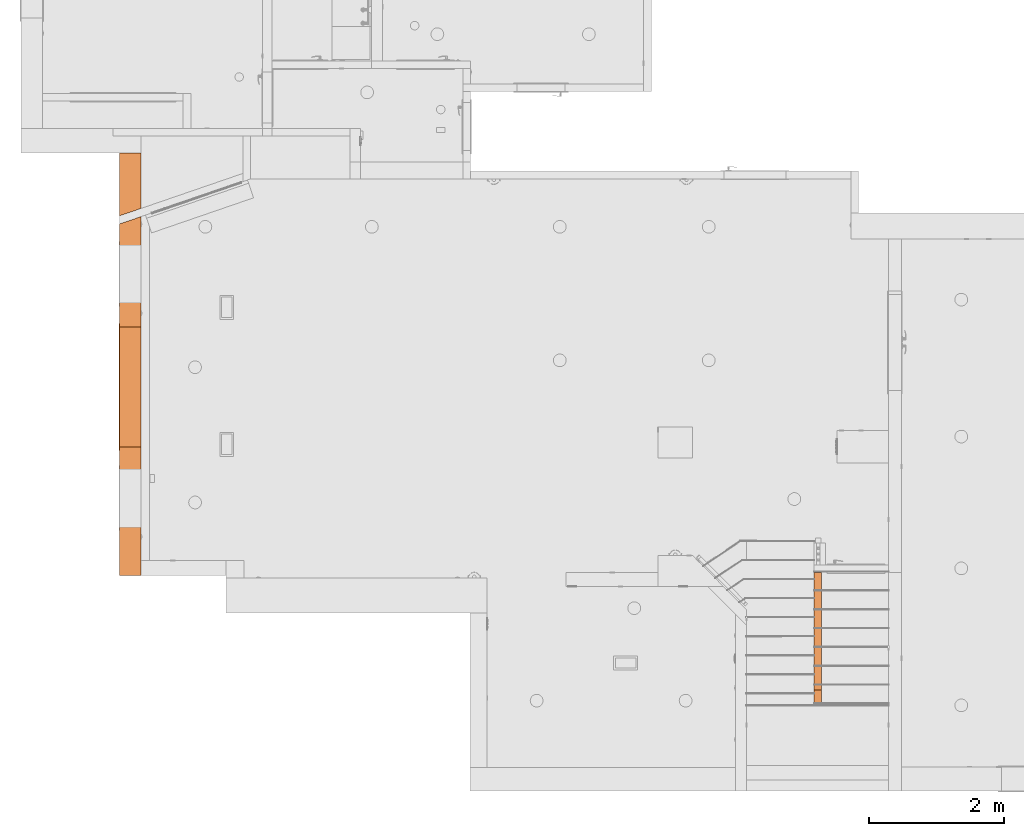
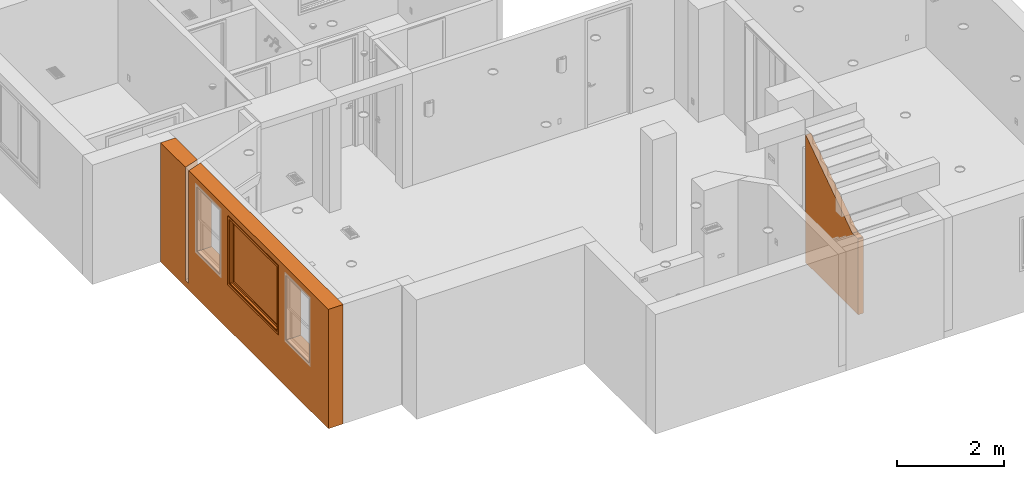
# One storey, part 35 of 48: 3 proxies.
"""IFC2X3 building model written with IfcOpenShell, lengths in inches."""

import ifcopenshell
import ifcopenshell.guid

model = None  # the IFC model being written
_history = None  # IfcOwnerHistory: only IFC2X3 demands one
_inside = {}  # id of a spatial element -> (the spatial element, [elements in it])
_under = {}  # id of a project, library or spatial element -> (it, [spatial elements below it])
_declared = {}  # id of a project -> (the project, [libraries it declares])
_typed = {}  # id of a type object -> (the type object, [elements of that type])
_made_of = {}  # id of a material, layer set ... -> (it, [elements and type objects made of it])


def new_model(schema):
    """Start an empty IFC model of exactly this schema.

    Asked for "IFC4X3", IfcOpenShell would pick the latest addendum, in which some entities
    have other attributes; the version numbers below select the first issue.
    IFC2X3 requires an IfcOwnerHistory on every rooted entity: one is made here for all.
    """
    global model, _history
    if schema == "IFC4X3":
        model = ifcopenshell.file(schema_version=(4, 3, 0, 0))
    else:
        model = ifcopenshell.file(schema=schema)
    _inside.clear()
    _under.clear()
    _declared.clear()
    _typed.clear()
    _made_of.clear()
    _history = None
    if model.schema == "IFC2X3":
        org = make("IfcOrganization", Name="unknown")
        user = make(
            "IfcPersonAndOrganization",
            ThePerson=make("IfcPerson", FamilyName="unknown"),
            TheOrganization=org,
        )
        app = make(
            "IfcApplication",
            ApplicationDeveloper=org,
            Version="unknown",
            ApplicationFullName="unknown",
            ApplicationIdentifier="unknown",
        )
        _history = make(
            "IfcOwnerHistory",
            OwningUser=user,
            OwningApplication=app,
            ChangeAction="ADDED",
            CreationDate=0,
        )
    return model


def make(cls, **values):
    """One entity of the class cls with the attributes given. An attribute that is None is left unset."""
    return model.create_entity(
        cls, **{name: value for name, value in values.items() if value is not None}
    )


def entity(cls, *values):
    """Any entity or typed value of the class cls, its attributes in the order of the schema. None: left unset."""
    e = model.create_entity(cls)
    for i, value in enumerate(values):
        if value is not None:
            e[i] = value
    return e


def rooted(cls, **values):
    """An entity with a GlobalId (a new one), such as an element, a storey or a relation."""
    return make(cls, GlobalId=ifcopenshell.guid.new(), OwnerHistory=_history, **values)


def si_unit(unit_type, name, prefix=None):
    """IfcSIUnit, for example si_unit("LENGTHUNIT", "METRE", prefix="MILLI")."""
    return make("IfcSIUnit", UnitType=unit_type, Prefix=prefix, Name=name)


def converted_unit(unit_type, name, factor, base, dimensions=None, offset=None):
    """IfcConversionBasedUnit, such as the inch: factor (a typed value) times the base unit."""
    return make(
        "IfcConversionBasedUnit"
        if offset is None
        else "IfcConversionBasedUnitWithOffset",
        ConversionOffset=offset,
        Dimensions=None
        if dimensions is None
        else entity("IfcDimensionalExponents", *dimensions),
        UnitType=unit_type,
        Name=name,
        ConversionFactor=make(
            "IfcMeasureWithUnit", ValueComponent=factor, UnitComponent=base
        ),
    )


def derived_unit(unit_type, elements):
    """IfcDerivedUnit: a product of units, each with its exponent."""
    return make(
        "IfcDerivedUnit",
        Elements=[
            make("IfcDerivedUnitElement", Unit=unit, Exponent=power)
            for unit, power in elements
        ],
        UnitType=unit_type,
    )


def money_unit(currency):
    """IfcMonetaryUnit."""
    return make("IfcMonetaryUnit", Currency=currency)


def assignment(units):
    """IfcUnitAssignment: the units of a project."""
    return None if units is None else make("IfcUnitAssignment", Units=units)


def point(xyz):
    """IfcCartesianPoint."""
    return None if xyz is None else make("IfcCartesianPoint", Coordinates=xyz)


def direction(xyz):
    """IfcDirection."""
    return None if xyz is None else make("IfcDirection", DirectionRatios=xyz)


def frame(location, z_axis=None, x_axis=None):
    """IfcAxis2Placement3D, a coordinate frame: its origin and axes. An axis left out is left unset."""
    return make(
        "IfcAxis2Placement3D",
        Location=point(location),
        Axis=direction(z_axis),
        RefDirection=direction(x_axis),
    )


def origin_with_axes():
    """The frame at (0, 0, 0) with the z axis (0, 0, 1) and the x axis (1, 0, 0) written out."""
    return frame((0.0, 0.0, 0.0), z_axis=(0.0, 0.0, 1.0), x_axis=(1.0, 0.0, 0.0))


def place(relative_to, where):
    """IfcLocalPlacement: puts the frame where relative to a parent placement (None: the world)."""
    return make(
        "IfcLocalPlacement", PlacementRelTo=relative_to, RelativePlacement=where
    )


def context(
    kind, dimensions, precision=None, world=None, true_north=None, identifier=None
):
    """IfcGeometricRepresentationContext, for example the 3D "Model" context."""
    return make(
        "IfcGeometricRepresentationContext",
        ContextIdentifier=identifier,
        ContextType=kind,
        CoordinateSpaceDimension=dimensions,
        Precision=precision,
        WorldCoordinateSystem=world,
        TrueNorth=true_north,
    )


def subcontext(parent, identifier, kind, view, scale=None):
    """IfcGeometricRepresentationSubContext, for example "Body" below "Model"."""
    return make(
        "IfcGeometricRepresentationSubContext",
        ContextIdentifier=identifier,
        ContextType=kind,
        ParentContext=parent,
        TargetScale=scale,
        TargetView=view,
    )


def project(units=None, contexts=None):
    """IfcProject with its units and contexts."""
    return rooted(
        "IfcProject",
        Name="project",
        RepresentationContexts=contexts,
        UnitsInContext=assignment(units),
    )


def spatial(cls, under=None, at=None, **own):
    """A site, building, storey or space (cls), placed at a placement, below another one or the project."""
    s = rooted(cls, ObjectPlacement=at, **own)
    if under is not None:
        _under.setdefault(under.id(), (under, []))[1].append(s)
    return s


def faces_of(points, faces, orient=None, outer=None):
    """IfcFace entities. A face is a list of loops; a loop is a list of indices into points, from 0.

    orient and outer hold one flag for each loop. By default every Orientation is true, the
    first loop of a face is its IfcFaceOuterBound and the others are IfcFaceBound.
    """
    made = []
    for i, loops in enumerate(faces):
        bounds = []
        for j, loop in enumerate(loops):
            is_outer = j == 0 if outer is None else outer[i][j]
            bounds.append(
                make(
                    "IfcFaceOuterBound" if is_outer else "IfcFaceBound",
                    Bound=make("IfcPolyLoop", Polygon=[points[k] for k in loop]),
                    Orientation=True if orient is None else orient[i][j],
                )
            )
        made.append(make("IfcFace", Bounds=bounds))
    return made


def faceted_brep(points, faces, orient=None, outer=None, voids=None):
    """IfcFacetedBrep: a solid bounded by flat faces; with voids (closed shells), ...WithVoids."""
    shared = [point(p) for p in points]
    hull = make("IfcClosedShell", CfsFaces=faces_of(shared, faces, orient, outer))
    if voids is None:
        return make("IfcFacetedBrep", Outer=hull)
    return make(
        "IfcFacetedBrepWithVoids",
        Outer=hull,
        Voids=[
            make(cls, CfsFaces=faces_of(shared, fs, o, b)) for cls, fs, o, b in voids
        ],
    )


def shape(context_of_items, identifier, shape_type, items):
    """IfcShapeRepresentation: the items that make up one representation, for example the "Body"."""
    return make(
        "IfcShapeRepresentation",
        ContextOfItems=context_of_items,
        RepresentationIdentifier=identifier,
        RepresentationType=shape_type,
        Items=items,
    )


def material(Name=None, Category=None):
    """IfcMaterial."""
    return make("IfcMaterial", Name=Name, Category=Category)


def made_of(thing, what):
    """Note that an element or type object is made of a material, layer set ...; save() writes the relation."""
    if what is not None:
        _made_of.setdefault(what.id(), (what, []))[1].append(thing)
    return thing


def type_object(cls, material=None, **own):
    """A type object (cls), such as IfcWallType, which elements share."""
    return made_of(rooted(cls, **own), material)


def element(
    cls,
    number,
    at=None,
    inside=None,
    cuts=None,
    type_object=None,
    material=None,
    context=None,
    identifier="Body",
    shape_type=None,
    held_by="IfcProductDefinitionShape",
    body=None,
    shapes=None,
    **own,
):
    """One element of the class cls, such as IfcWall. Its Tag is "e" and its number.

    at: its placement. inside: the storey or other place that contains it. cuts: it is an
    opening in that element (IfcRelVoidsElement). A single representation is given by context,
    identifier, shape_type and body (its items); several are given by shapes. held_by: the class
    of the entity that holds the representations. save() writes the other relations.
    """
    e = rooted(cls, Tag="e%d" % number, ObjectPlacement=at, **own)
    if body is not None:
        shapes = [shape(context, identifier, shape_type, body)]
    if shapes is not None:
        e.Representation = make(held_by, Representations=shapes)
    if inside is not None:
        _inside.setdefault(inside.id(), (inside, []))[1].append(e)
    if cuts is not None:
        rooted(
            "IfcRelVoidsElement", RelatingBuildingElement=cuts, RelatedOpeningElement=e
        )
    if type_object is not None:
        _typed.setdefault(type_object.id(), (type_object, []))[1].append(e)
    return made_of(e, material)


def aggregate(whole, parts):
    """IfcRelAggregates: a whole, such as a stair, and the parts it consists of."""
    return rooted("IfcRelAggregates", RelatingObject=whole, RelatedObjects=parts)


def save(model, path):
    """Write the relations noted so far, then the file.

    IfcRelAggregates (storeys below a building ...), IfcRelContainedInSpatialStructure (elements
    in a storey), IfcRelDefinesByType, IfcRelAssociatesMaterial and IfcRelDeclares: one each for
    every whole, place, type object, material and project.
    """
    for whole, parts in _under.values():
        aggregate(whole, parts)
    for where, things in _inside.values():
        rooted(
            "IfcRelContainedInSpatialStructure",
            RelatedElements=things,
            RelatingStructure=where,
        )
    for kind, things in _typed.values():
        rooted("IfcRelDefinesByType", RelatedObjects=things, RelatingType=kind)
    for what, things in _made_of.values():
        rooted("IfcRelAssociatesMaterial", RelatedObjects=things, RelatingMaterial=what)
    for by, libraries in _declared.values():
        rooted("IfcRelDeclares", RelatingContext=by, RelatedDefinitions=libraries)
    model.write(path)


model = new_model("IFC2X3")

# Units and contexts
model_context = context("Model", 3, precision=0.00039370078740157, world=origin_with_axes(), true_north=direction((0.0, 1.0)))
plan_context = context("Plan", 3, precision=0.00039370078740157, world=origin_with_axes(), true_north=direction((0.0, 1.0)))
body_context = subcontext(model_context, "Body", "Model", "MODEL_VIEW")
ifc_project = project(units=[converted_unit("LENGTHUNIT", "INCH", entity("IfcPositiveLengthMeasure", 0.0254), si_unit("LENGTHUNIT", "METRE"), dimensions=[1, 0, 0, 0, 0, 0, 0]), converted_unit("AREAUNIT", "SQUARE_FOOT", entity("IfcPositiveLengthMeasure", 0.09290304), si_unit("AREAUNIT", "SQUARE_METRE"), dimensions=[2, 0, 0, 0, 0, 0, 0]), si_unit("PLANEANGLEUNIT", "RADIAN"), si_unit("SOLIDANGLEUNIT", "STERADIAN"), money_unit("USD"), converted_unit("TIMEUNIT", "Year", entity("IfcTimeMeasure", 31557600.0), si_unit("TIMEUNIT", "SECOND"), dimensions=[0, 0, 1, 0, 0, 0, 0]), si_unit("MASSUNIT", "GRAM", prefix="KILO"), si_unit("THERMODYNAMICTEMPERATUREUNIT", "DEGREE_CELSIUS"), si_unit("LUMINOUSINTENSITYUNIT", "LUMEN"), si_unit("ENERGYUNIT", "JOULE", prefix="MEGA"), derived_unit("SPECIFICHEATCAPACITYUNIT", [(si_unit("ENERGYUNIT", "JOULE"), 1), (si_unit("MASSUNIT", "GRAM", prefix="KILO"), -1), (si_unit("THERMODYNAMICTEMPERATUREUNIT", "KELVIN"), -1)])], contexts=[model_context, plan_context])

# Site, building, storey
site_placement = place(None, origin_with_axes())
site = spatial("IfcSite", under=ifc_project, at=site_placement, Name="Site", CompositionType="ELEMENT")
building_placement = place(site_placement, origin_with_axes())
building = spatial("IfcBuilding", under=site, at=building_placement, Name="Building", CompositionType="ELEMENT")
storey_placement = place(building_placement, origin_with_axes())
storey = spatial("IfcBuildingStorey", under=building, at=storey_placement, Name="First Floor", CompositionType="ELEMENT", Elevation=0.0)

# Proxies
ifc_material = material(Name="Generic - Structural")
building_element_proxy_type_1 = type_object("IfcBuildingElementProxyType", Name="Generic - Structural 4 1/2\"", PredefinedType="NOTDEFINED")
proxy_1_placement = place(storey_placement, frame((200.999999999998, 50.50000017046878, -5.99999999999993), z_axis=(0.0, 0.0, 1.0), x_axis=(0.0, 1.0, 0.0)))
element("IfcBuildingElementProxy", 1, at=proxy_1_placement, inside=storey, type_object=building_element_proxy_type_1, material=ifc_material, Name="SW - 021", context=body_context, shape_type="Brep", body=[
    faceted_brep([(0.7537705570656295, -1.548232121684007e-05, 73.99999999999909), (0.7537722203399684, -4.499999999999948, 73.99999999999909), (8.4628180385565, -4.499999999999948, 73.99999999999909), (8.4628180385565, 0.0, 73.99999999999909), (0.753772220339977, -4.499999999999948, 73.49999999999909), (0.7537705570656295, -1.548232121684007e-05, 73.49999999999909), (0.0, -4.499999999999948, 73.49999999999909), (0.0, -4.499999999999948, 5.99999999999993), (76.99999982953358, -4.499999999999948, 5.99999999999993), (76.99999982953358, -4.499999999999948, 106.9999999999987), (76.99999982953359, -4.499999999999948, 120.7298967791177), (73.33333317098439, -4.499999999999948, 118.2298967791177), (69.66666651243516, -4.499999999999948, 115.7298967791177), (65.99999985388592, -4.499999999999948, 113.2298967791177), (62.33333319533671, -4.499999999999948, 110.7298967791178), (58.6666665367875, -4.499999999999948, 108.2298967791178), (54.99999987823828, -4.499999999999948, 105.7298967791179), (51.33333321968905, -4.499999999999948, 103.2298967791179), (47.66666656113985, -4.499999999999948, 100.7298967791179), (43.99999990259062, -4.499999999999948, 98.22989677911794), (40.33333324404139, -4.499999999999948, 95.72989677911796), (36.66666658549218, -4.499999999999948, 93.22989677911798), (32.99999992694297, -4.499999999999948, 90.72989677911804), (29.33333326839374, -4.499999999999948, 88.22989677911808), (25.66666660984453, -4.499999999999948, 85.7298967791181), (21.99999995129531, -4.499999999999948, 83.22989677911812), (18.33333329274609, -4.499999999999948, 80.72989677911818), (14.66666663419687, -4.499999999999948, 78.22989677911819), (10.99999997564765, -4.499999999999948, 75.72989677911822), (10.99999997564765, 0.0, 75.72989677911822), (14.66666663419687, 0.0, 78.22989677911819), (18.33333329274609, 0.0, 80.72989677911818), (21.99999995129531, 0.0, 83.22989677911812), (25.66666660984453, 0.0, 85.7298967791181), (29.33333326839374, 0.0, 88.22989677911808), (32.99999992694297, 0.0, 90.72989677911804), (36.66666658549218, 0.0, 93.22989677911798), (40.33333324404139, 0.0, 95.72989677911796), (43.99999990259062, 0.0, 98.22989677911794), (47.66666656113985, 0.0, 100.7298967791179), (51.33333321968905, 0.0, 103.2298967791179), (54.99999987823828, 0.0, 105.7298967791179), (58.6666665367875, 0.0, 108.2298967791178), (62.33333319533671, 0.0, 110.7298967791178), (65.99999985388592, 0.0, 113.2298967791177), (69.66666651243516, 0.0, 115.7298967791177), (73.33333317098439, 0.0, 118.2298967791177), (76.99999982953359, 0.0, 120.7298967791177), (76.99999982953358, 0.0, 106.9999999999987), (76.99999982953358, 0.0, 5.99999999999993), (0.0, 0.0, 5.99999999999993), (0.0, 0.0, 73.49999999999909)], [[[0, 1, 2, 3]], [[4, 1, 0, 5]], [[4, 6, 7, 8, 9, 10, 11, 12, 13, 14, 15, 16, 17, 18, 19, 20, 21, 22, 23, 24, 25, 26, 27, 28, 2, 1]], [[3, 2, 28, 29]], [[5, 0, 3, 29, 30, 31, 32, 33, 34, 35, 36, 37, 38, 39, 40, 41, 42, 43, 44, 45, 46, 47, 48, 49, 50, 51]], [[6, 4, 5, 51]], [[6, 51, 50, 7]], [[8, 7, 50, 49]], [[49, 48, 9, 8]], [[48, 47, 10, 9]], [[46, 11, 10, 47]], [[45, 12, 11, 46]], [[44, 13, 12, 45]], [[43, 14, 13, 44]], [[42, 15, 14, 43]], [[41, 16, 15, 42]], [[40, 17, 16, 41]], [[39, 18, 17, 40]], [[38, 19, 18, 39]], [[37, 20, 19, 38]], [[36, 21, 20, 37]], [[35, 22, 21, 36]], [[34, 23, 22, 35]], [[33, 24, 23, 34]], [[32, 25, 24, 33]], [[31, 26, 25, 32]], [[30, 27, 26, 31]], [[29, 28, 27, 30]]]),
])
building_element_proxy_type_2 = type_object("IfcBuildingElementProxyType", Name="Generic - Structural 12 1/2\"", PredefinedType="NOTDEFINED")
proxy_2_placement = place(storey_placement, frame((-192.0000016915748, 386.9999999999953, -5.99999999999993), z_axis=(0.0, 0.0, 1.0), x_axis=(0.0, -1.0, 0.0)))
element("IfcBuildingElementProxy", 2, at=proxy_2_placement, inside=storey, type_object=building_element_proxy_type_2, material=ifc_material, Name="SW - 019", context=body_context, shape_type="Brep", body=[
    faceted_brep([(55.79689677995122, -12.49999999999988, 5.99999999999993), (51.03844865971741, -12.49999999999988, 5.99999999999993), (51.03844865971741, -12.49999999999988, 106.9999999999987), (14.49999999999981, -12.49999999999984, 106.9999999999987), (14.49999999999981, -12.49999999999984, 0.0), (261.0000211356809, -12.49999999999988, 0.0), (261.0000211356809, -12.49999999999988, 106.9999999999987), (55.79689677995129, -12.49999999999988, 106.9999999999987), (68.00274101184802, -12.49999999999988, 99.99999999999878), (102.0027410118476, -12.49999999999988, 99.99999999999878), (102.0027410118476, -12.49999999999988, 41.9999999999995), (68.00274101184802, -12.49999999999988, 41.9999999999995), (116.005241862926, -12.49999999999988, 41.9999999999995), (116.005241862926, -12.49999999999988, 99.99999999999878), (186.0052418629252, -12.49999999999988, 99.99999999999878), (186.0052418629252, -12.49999999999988, 41.9999999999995), (232.9999999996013, -12.49999999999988, 41.9999999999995), (198.9999999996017, -12.49999999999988, 41.9999999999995), (198.9999999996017, -12.49999999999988, 99.99999999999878), (232.9999999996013, -12.49999999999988, 99.99999999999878), (51.50001617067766, 0.0, 5.99999999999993), (46.74156805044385, 0.0, 5.99999999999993), (46.74156805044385, 0.0, 106.9999999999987), (14.49999999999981, 0.0, 106.9999999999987), (14.49999999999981, 0.0, 0.0), (261.0000174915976, 0.0, 0.0), (261.0000174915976, 0.0, 106.9999999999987), (51.50001617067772, 0.0, 106.9999999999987), (68.00274101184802, 0.0, 99.99999999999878), (102.0027410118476, 0.0, 99.99999999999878), (102.0027410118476, 0.0, 41.9999999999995), (68.00274101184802, 0.0, 41.9999999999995), (116.005241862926, 0.0, 99.99999999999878), (116.005241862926, 0.0, 41.9999999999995), (186.0052418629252, 0.0, 99.99999999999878), (186.0052418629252, 0.0, 41.9999999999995), (232.9999999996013, 0.0, 41.9999999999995), (198.9999999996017, 0.0, 41.9999999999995), (198.9999999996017, 0.0, 99.99999999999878), (232.9999999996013, 0.0, 99.99999999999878)], [[[0, 1, 2, 3, 4, 5, 6, 7], [8, 9, 10, 11], [12, 13, 14, 15], [16, 17, 18, 19]], [[20, 21, 1, 0]], [[21, 22, 2, 1]], [[23, 3, 2, 22]], [[23, 24, 4, 3]], [[4, 24, 25, 5]], [[25, 26, 6, 5]], [[27, 7, 6, 26]], [[7, 27, 20, 0]], [[9, 8, 28, 29]], [[10, 9, 29, 30]], [[11, 10, 30, 31]], [[8, 11, 31, 28]], [[32, 13, 12, 33]], [[34, 14, 13, 32]], [[35, 15, 14, 34]], [[33, 12, 15, 35]], [[36, 37, 17, 16]], [[37, 38, 18, 17]], [[38, 39, 19, 18]], [[39, 36, 16, 19]], [[20, 27, 26, 25, 24, 23, 22, 21], [28, 31, 30, 29], [34, 32, 33, 35], [36, 39, 38, 37]]]),
])
building_element_proxy_type_3 = type_object("IfcBuildingElementProxyType", Name="W1 Casement", PredefinedType="NOTDEFINED")
proxy_3_placement = place(storey_placement, frame((-192.0000016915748, 270.9947581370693, 35.99999999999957), z_axis=(0.0, 0.0, 1.0), x_axis=(0.0, -1.0, 0.0)))
element("IfcBuildingElementProxy", 3, at=proxy_3_placement, inside=storey, type_object=building_element_proxy_type_3, Name="WD - 001", context=body_context, shape_type="Brep", body=[
    faceted_brep([(69.99999999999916, -7.99999999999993, 0.0), (0.0, -7.99999999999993, 0.0), (0.0, 0.0, 0.0), (69.99999999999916, 0.0, 0.0), (69.99999999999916, -7.99999999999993, 57.99999999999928), (0.0, -7.99999999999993, 57.99999999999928), (69.49999999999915, -7.99999999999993, 0.4999999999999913), (0.5000000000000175, -7.99999999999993, 0.4999999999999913), (0.5000000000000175, -7.99999999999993, 57.4999999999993), (69.49999999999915, -7.99999999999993, 57.4999999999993), (0.0, 0.0, 57.99999999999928), (69.99999999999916, 0.0, 57.99999999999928), (69.49999999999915, 0.0, 0.4999999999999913), (69.49999999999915, 0.0, 57.4999999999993), (0.5000000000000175, 0.0, 57.4999999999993), (0.5000000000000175, 0.0, 0.4999999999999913)], [[[0, 1, 2, 3]], [[0, 4, 5, 1], [6, 7, 8, 9]], [[1, 5, 10, 2]], [[3, 2, 10, 11], [12, 13, 14, 15]], [[4, 0, 3, 11]], [[5, 4, 11, 10]], [[7, 6, 12, 15]], [[8, 7, 15, 14]], [[9, 8, 14, 13]], [[6, 9, 13, 12]]]),
    faceted_brep([(71.99999999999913, 0.4999999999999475, -1.999999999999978), (71.99999999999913, 0.0, -1.999999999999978), (69.99999999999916, 0.0, 0.0), (69.99999999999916, 0.4999999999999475, 0.0), (71.99999999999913, 0.4999999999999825, 59.99999999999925), (71.99999999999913, 0.0, 59.99999999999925), (69.99999999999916, 0.0, 57.99999999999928), (69.99999999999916, 0.4999999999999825, 57.99999999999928)], [[[0, 1, 2, 3]], [[4, 5, 1, 0]], [[1, 5, 6, 2]], [[3, 2, 6, 7]], [[0, 3, 7, 4]], [[7, 6, 5, 4]]]),
    faceted_brep([(-1.999999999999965, 0.4999999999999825, 59.99999999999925), (-1.999999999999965, 0.0, 59.99999999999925), (0.0, 0.0, 57.99999999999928), (0.0, 0.4999999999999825, 57.99999999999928), (-1.999999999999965, 0.4999999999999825, -1.999999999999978), (-1.999999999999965, 0.0, -1.999999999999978), (0.0, 0.0, 0.0), (0.0, 0.4999999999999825, 0.0)], [[[0, 1, 2, 3]], [[4, 5, 1, 0]], [[1, 5, 6, 2]], [[3, 2, 6, 7]], [[0, 3, 7, 4]], [[7, 6, 5, 4]]]),
    faceted_brep([(-1.999999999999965, 0.4999999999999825, -1.999999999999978), (-1.999999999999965, 0.0, -1.999999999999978), (0.0, 0.0, 0.0), (0.0, 0.4999999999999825, 0.0), (71.99999999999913, 0.4999999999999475, -1.999999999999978), (71.99999999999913, 0.0, -1.999999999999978), (69.99999999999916, 0.0, 0.0), (69.99999999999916, 0.4999999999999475, 0.0)], [[[0, 1, 2, 3]], [[4, 5, 1, 0]], [[1, 5, 6, 2]], [[3, 2, 6, 7]], [[0, 3, 7, 4]], [[7, 6, 5, 4]]]),
    faceted_brep([(71.99999999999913, 0.4999999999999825, 59.99999999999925), (71.99999999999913, 0.0, 59.99999999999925), (69.99999999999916, 0.0, 57.99999999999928), (69.99999999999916, 0.4999999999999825, 57.99999999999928), (-1.999999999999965, 0.4999999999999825, 59.99999999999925), (-1.999999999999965, 0.0, 59.99999999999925), (0.0, 0.0, 57.99999999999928), (0.0, 0.4999999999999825, 57.99999999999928)], [[[0, 1, 2, 3]], [[4, 5, 1, 0]], [[1, 5, 6, 2]], [[3, 2, 6, 7]], [[0, 3, 7, 4]], [[7, 6, 5, 4]]]),
    faceted_brep([(71.99999999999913, -12.99999999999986, -1.999999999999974), (69.99999999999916, -12.99999999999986, 0.0), (69.99999999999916, -12.49999999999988, 0.0), (71.99999999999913, -12.49999999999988, -1.999999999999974), (71.99999999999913, -12.99999999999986, 59.99999999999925), (69.99999999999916, -12.99999999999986, 57.99999999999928), (69.99999999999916, -12.49999999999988, 57.99999999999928), (71.99999999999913, -12.49999999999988, 59.99999999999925)], [[[0, 1, 2, 3]], [[0, 4, 5, 1]], [[1, 5, 6, 2]], [[3, 2, 6, 7]], [[4, 0, 3, 7]], [[5, 4, 7, 6]]]),
    faceted_brep([(-1.999999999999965, -12.99999999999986, 59.99999999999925), (0.0, -12.99999999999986, 57.99999999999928), (0.0, -12.49999999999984, 57.99999999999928), (-1.999999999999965, -12.49999999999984, 59.99999999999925), (-1.999999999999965, -12.99999999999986, -1.999999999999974), (0.0, -12.99999999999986, 0.0), (0.0, -12.49999999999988, 0.0), (-1.999999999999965, -12.49999999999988, -1.999999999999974)], [[[0, 1, 2, 3]], [[0, 4, 5, 1]], [[1, 5, 6, 2]], [[3, 2, 6, 7]], [[4, 0, 3, 7]], [[5, 4, 7, 6]]]),
    faceted_brep([(-1.999999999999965, -12.99999999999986, -1.999999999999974), (0.0, -12.99999999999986, 0.0), (0.0, -12.49999999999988, 0.0), (-1.999999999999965, -12.49999999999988, -1.999999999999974), (71.99999999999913, -12.99999999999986, -1.999999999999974), (69.99999999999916, -12.99999999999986, 0.0), (69.99999999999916, -12.49999999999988, 0.0), (71.99999999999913, -12.49999999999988, -1.999999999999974)], [[[0, 1, 2, 3]], [[0, 4, 5, 1]], [[1, 5, 6, 2]], [[3, 2, 6, 7]], [[4, 0, 3, 7]], [[5, 4, 7, 6]]]),
    faceted_brep([(71.99999999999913, -12.99999999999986, 59.99999999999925), (69.99999999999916, -12.99999999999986, 57.99999999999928), (69.99999999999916, -12.49999999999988, 57.99999999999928), (71.99999999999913, -12.49999999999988, 59.99999999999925), (-1.999999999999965, -12.99999999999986, 59.99999999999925), (0.0, -12.99999999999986, 57.99999999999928), (0.0, -12.49999999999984, 57.99999999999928), (-1.999999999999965, -12.49999999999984, 59.99999999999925)], [[[0, 1, 2, 3]], [[0, 4, 5, 1]], [[1, 5, 6, 2]], [[3, 2, 6, 7]], [[4, 0, 3, 7]], [[5, 4, 7, 6]]]),
    faceted_brep([(69.50039370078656, -12.49999999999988, 0.7539370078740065), (69.99999999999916, -12.49999999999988, 0.7539370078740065), (69.99999999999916, -12.49999999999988, 57.49606299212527), (69.50039370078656, -12.49999999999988, 57.49606299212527), (69.50039370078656, -10.74999999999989, 0.7539370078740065), (69.74999999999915, -10.74999999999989, 0.7539370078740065), (69.74999999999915, -7.99999999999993, 0.7539370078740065), (69.99999999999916, -7.99999999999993, 0.7539370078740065), (69.99999999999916, -7.99999999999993, 57.49606299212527), (69.74999999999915, -7.99999999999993, 57.49606299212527), (69.74999999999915, -10.74999999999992, 57.49606299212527), (69.50039370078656, -10.74999999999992, 57.49606299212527)], [[[0, 1, 2, 3]], [[4, 5, 6, 7, 1, 0]], [[7, 8, 2, 1]], [[3, 2, 8, 9, 10, 11]], [[11, 4, 0, 3]], [[11, 10, 5, 4]], [[5, 10, 9, 6]], [[7, 6, 9, 8]]]),
    faceted_brep([(0.4996062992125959, -10.74999999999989, 57.49606299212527), (0.2500000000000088, -10.74999999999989, 57.49606299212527), (0.2500000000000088, -7.99999999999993, 57.49606299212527), (0.0, -7.99999999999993, 57.49606299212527), (0.0, -12.49999999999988, 57.49606299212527), (0.4996062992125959, -12.49999999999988, 57.49606299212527), (0.4996062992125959, -10.74999999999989, 0.7539370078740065), (0.2500000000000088, -10.74999999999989, 0.7539370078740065), (0.2500000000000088, -7.99999999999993, 0.7539370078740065), (0.0, -7.99999999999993, 0.7539370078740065), (0.0, -12.49999999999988, 0.7539370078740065), (0.4996062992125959, -12.49999999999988, 0.7539370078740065)], [[[0, 1, 2, 3, 4, 5]], [[6, 7, 1, 0]], [[7, 8, 2, 1]], [[3, 2, 8, 9]], [[3, 9, 10, 4]], [[5, 4, 10, 11]], [[11, 6, 0, 5]], [[11, 10, 9, 8, 7, 6]]]),
    faceted_brep([(0.4996062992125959, -10.74999999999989, 0.7539370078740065), (0.2500000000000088, -10.74999999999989, 0.7539370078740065), (0.2500000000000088, -7.99999999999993, 0.7539370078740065), (0.0, -7.99999999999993, 0.7539370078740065), (0.0, -12.49999999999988, 0.7539370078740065), (0.4996062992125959, -12.49999999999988, 0.7539370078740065), (0.4996062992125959, -10.74999999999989, 0.7496062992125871), (69.50039370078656, -10.74999999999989, 0.7496062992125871), (69.50039370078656, -10.74999999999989, 0.7539370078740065), (69.74999999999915, -10.74999999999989, 0.7539370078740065), (69.74999999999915, -10.74999999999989, 0.4999999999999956), (0.2500000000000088, -10.74999999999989, 0.4999999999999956), (0.2500000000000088, -7.99999999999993, 0.4999999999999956), (69.99999999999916, -7.99999999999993, 0.0), (0.0, -7.99999999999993, 0.0), (69.74999999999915, -7.99999999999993, 0.4999999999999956), (69.74999999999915, -7.99999999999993, 0.7539370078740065), (69.99999999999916, -7.99999999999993, 0.7539370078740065), (0.0, -12.49999999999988, 0.0), (69.50039370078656, -12.49999999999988, 0.7496062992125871), (0.4996062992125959, -12.49999999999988, 0.7496062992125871), (69.99999999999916, -12.49999999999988, 0.0), (69.99999999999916, -12.49999999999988, 0.7539370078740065), (69.50039370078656, -12.49999999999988, 0.7539370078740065)], [[[0, 1, 2, 3, 4, 5]], [[6, 7, 8, 9, 10, 11, 1, 0]], [[11, 12, 2, 1]], [[13, 14, 3, 2, 12, 15, 16, 17]], [[3, 14, 18, 4]], [[19, 20, 5, 4, 18, 21, 22, 23]], [[20, 6, 0, 5]], [[19, 7, 6, 20]], [[8, 7, 19, 23]], [[23, 22, 17, 16, 9, 8]], [[10, 9, 16, 15]], [[10, 15, 12, 11]], [[14, 13, 21, 18]], [[13, 17, 22, 21]]]),
    faceted_brep([(69.50039370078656, -12.49999999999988, 57.49606299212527), (69.99999999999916, -12.49999999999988, 57.49606299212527), (69.99999999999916, -12.49999999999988, 57.99999999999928), (0.0, -12.49999999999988, 57.99999999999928), (0.0, -12.49999999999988, 57.49606299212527), (0.4996062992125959, -12.49999999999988, 57.49606299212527), (0.4996062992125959, -12.49999999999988, 57.50039370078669), (69.50039370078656, -12.49999999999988, 57.50039370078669), (69.50039370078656, -10.74999999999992, 57.49606299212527), (69.74999999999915, -10.74999999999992, 57.49606299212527), (69.74999999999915, -7.99999999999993, 57.49606299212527), (69.99999999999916, -7.99999999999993, 57.49606299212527), (69.99999999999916, -7.99999999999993, 57.99999999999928), (0.0, -7.99999999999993, 57.99999999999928), (0.0, -7.99999999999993, 57.49606299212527), (0.2500000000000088, -7.99999999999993, 57.49606299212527), (0.2500000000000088, -10.74999999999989, 57.49606299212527), (0.4996062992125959, -10.74999999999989, 57.49606299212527), (0.4996062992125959, -10.74999999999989, 57.50039370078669), (69.50039370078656, -10.74999999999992, 57.50039370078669), (0.2500000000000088, -10.74999999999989, 57.74999999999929), (69.74999999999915, -10.74999999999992, 57.74999999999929), (69.74999999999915, -7.99999999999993, 57.74999999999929), (0.2500000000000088, -7.99999999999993, 57.74999999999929)], [[[0, 1, 2, 3, 4, 5, 6, 7]], [[8, 9, 10, 11, 1, 0]], [[11, 12, 2, 1]], [[12, 13, 3, 2]], [[13, 14, 4, 3]], [[5, 4, 14, 15, 16, 17]], [[5, 17, 18, 6]], [[6, 18, 19, 7]], [[7, 19, 8, 0]], [[19, 18, 17, 16, 20, 21, 9, 8]], [[21, 22, 10, 9]], [[15, 14, 13, 12, 11, 10, 22, 23]], [[16, 15, 23, 20]], [[20, 23, 22, 21]]]),
    faceted_brep([(67.74999999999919, -10.74999999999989, 2.499999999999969), (67.74999999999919, -10.74999999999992, 55.74999999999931), (67.74999999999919, -9.874999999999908, 55.74999999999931), (67.74999999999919, -9.874999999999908, 2.499999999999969), (69.74999999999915, -10.74999999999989, 2.499999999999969), (69.74999999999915, -10.74999999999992, 55.74999999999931), (69.74999999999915, -9.874999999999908, 55.74999999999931), (69.74999999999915, -9.874999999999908, 2.499999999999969)], [[[0, 1, 2, 3]], [[0, 4, 5, 1]], [[1, 5, 6, 2]], [[3, 2, 6, 7]], [[4, 0, 3, 7]], [[5, 4, 7, 6]]]),
    faceted_brep([(0.2500000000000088, -10.74999999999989, 2.499999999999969), (0.2500000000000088, -10.74999999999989, 55.74999999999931), (0.2500000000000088, -9.874999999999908, 55.74999999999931), (0.2500000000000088, -9.874999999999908, 2.499999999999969), (2.249999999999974, -10.74999999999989, 2.499999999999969), (2.249999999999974, -10.74999999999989, 55.74999999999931), (2.249999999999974, -9.874999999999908, 55.74999999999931), (2.249999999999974, -9.874999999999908, 2.499999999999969)], [[[0, 1, 2, 3]], [[0, 4, 5, 1]], [[1, 5, 6, 2]], [[3, 2, 6, 7]], [[4, 0, 3, 7]], [[5, 4, 7, 6]]]),
    faceted_brep([(0.2500000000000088, -10.74999999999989, 0.4999999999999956), (0.2500000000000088, -10.74999999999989, 2.499999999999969), (0.2500000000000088, -9.874999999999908, 2.499999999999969), (0.2500000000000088, -9.874999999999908, 0.4999999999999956), (69.74999999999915, -10.74999999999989, 0.4999999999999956), (69.74999999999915, -10.74999999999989, 2.499999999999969), (67.74999999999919, -10.74999999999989, 2.499999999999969), (35.99999999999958, -10.74999999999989, 2.499999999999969), (33.99999999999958, -10.74999999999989, 2.499999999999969), (2.249999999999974, -10.74999999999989, 2.499999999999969), (2.249999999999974, -9.874999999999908, 2.499999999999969), (33.99999999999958, -9.874999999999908, 2.499999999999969), (35.99999999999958, -9.874999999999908, 2.499999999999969), (67.74999999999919, -9.874999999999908, 2.499999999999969), (69.74999999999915, -9.874999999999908, 2.499999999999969), (69.74999999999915, -9.874999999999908, 0.4999999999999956)], [[[0, 1, 2, 3]], [[0, 4, 5, 6, 7, 8, 9, 1]], [[1, 9, 10, 2]], [[3, 2, 10, 11, 12, 13, 14, 15]], [[4, 0, 3, 15]], [[5, 4, 15, 14]], [[6, 5, 14, 13]], [[7, 6, 13, 12]], [[8, 7, 12, 11]], [[9, 8, 11, 10]]]),
    faceted_brep([(69.74999999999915, -10.74999999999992, 57.74999999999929), (69.74999999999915, -10.74999999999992, 55.74999999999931), (69.74999999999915, -9.874999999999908, 55.74999999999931), (69.74999999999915, -9.874999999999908, 57.74999999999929), (0.2500000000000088, -10.74999999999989, 57.74999999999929), (0.2500000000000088, -10.74999999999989, 55.74999999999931), (2.249999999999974, -10.74999999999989, 55.74999999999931), (33.99999999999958, -10.74999999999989, 55.74999999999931), (35.99999999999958, -10.74999999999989, 55.74999999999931), (67.74999999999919, -10.74999999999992, 55.74999999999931), (67.74999999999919, -9.874999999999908, 55.74999999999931), (35.99999999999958, -9.874999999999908, 55.74999999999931), (33.99999999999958, -9.874999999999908, 55.74999999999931), (2.249999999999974, -9.874999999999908, 55.74999999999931), (0.2500000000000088, -9.874999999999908, 55.74999999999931), (0.2500000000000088, -9.874999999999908, 57.74999999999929)], [[[0, 1, 2, 3]], [[0, 4, 5, 6, 7, 8, 9, 1]], [[1, 9, 10, 2]], [[3, 2, 10, 11, 12, 13, 14, 15]], [[4, 0, 3, 15]], [[5, 4, 15, 14]], [[6, 5, 14, 13]], [[7, 6, 13, 12]], [[8, 7, 12, 11]], [[9, 8, 11, 10]]]),
    faceted_brep([(67.74999999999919, -9.874999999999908, 2.499999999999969), (67.74999999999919, -9.874999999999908, 55.74999999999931), (67.74999999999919, -8.99999999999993, 55.74999999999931), (67.74999999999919, -8.99999999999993, 2.499999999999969), (69.74999999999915, -9.874999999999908, 2.499999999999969), (69.74999999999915, -9.874999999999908, 55.74999999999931), (69.74999999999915, -8.99999999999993, 55.74999999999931), (69.74999999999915, -8.99999999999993, 2.499999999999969)], [[[0, 1, 2, 3]], [[0, 4, 5, 1]], [[1, 5, 6, 2]], [[3, 2, 6, 7]], [[4, 0, 3, 7]], [[5, 4, 7, 6]]]),
    faceted_brep([(0.2500000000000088, -9.874999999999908, 2.499999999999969), (0.2500000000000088, -9.874999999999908, 55.74999999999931), (0.2500000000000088, -8.99999999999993, 55.74999999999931), (0.2500000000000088, -8.99999999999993, 2.499999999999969), (2.249999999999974, -9.874999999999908, 2.499999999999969), (2.249999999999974, -9.874999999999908, 55.74999999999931), (2.249999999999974, -8.99999999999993, 55.74999999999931), (2.249999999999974, -8.99999999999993, 2.499999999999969)], [[[0, 1, 2, 3]], [[0, 4, 5, 1]], [[1, 5, 6, 2]], [[3, 2, 6, 7]], [[4, 0, 3, 7]], [[5, 4, 7, 6]]]),
    faceted_brep([(0.2500000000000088, -9.874999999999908, 0.4999999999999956), (0.2500000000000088, -9.874999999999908, 2.499999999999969), (0.2500000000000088, -8.99999999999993, 2.499999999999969), (0.2500000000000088, -8.99999999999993, 0.4999999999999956), (69.74999999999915, -9.874999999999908, 0.4999999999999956), (69.74999999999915, -9.874999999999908, 2.499999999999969), (67.74999999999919, -9.874999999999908, 2.499999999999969), (35.99999999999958, -9.874999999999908, 2.499999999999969), (33.99999999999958, -9.874999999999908, 2.499999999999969), (2.249999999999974, -9.874999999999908, 2.499999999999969), (2.249999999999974, -8.99999999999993, 2.499999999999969), (33.99999999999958, -8.99999999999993, 2.499999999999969), (35.99999999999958, -8.99999999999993, 2.499999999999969), (67.74999999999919, -8.99999999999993, 2.499999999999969), (69.74999999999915, -8.99999999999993, 2.499999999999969), (69.74999999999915, -8.99999999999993, 0.4999999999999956)], [[[0, 1, 2, 3]], [[0, 4, 5, 6, 7, 8, 9, 1]], [[1, 9, 10, 2]], [[3, 2, 10, 11, 12, 13, 14, 15]], [[4, 0, 3, 15]], [[5, 4, 15, 14]], [[6, 5, 14, 13]], [[7, 6, 13, 12]], [[8, 7, 12, 11]], [[9, 8, 11, 10]]]),
    faceted_brep([(69.74999999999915, -9.874999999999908, 57.74999999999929), (69.74999999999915, -9.874999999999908, 55.74999999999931), (69.74999999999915, -8.99999999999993, 55.74999999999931), (69.74999999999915, -8.99999999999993, 57.74999999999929), (0.2500000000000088, -9.874999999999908, 57.74999999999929), (0.2500000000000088, -9.874999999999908, 55.74999999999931), (2.249999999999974, -9.874999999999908, 55.74999999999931), (33.99999999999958, -9.874999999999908, 55.74999999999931), (35.99999999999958, -9.874999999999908, 55.74999999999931), (67.74999999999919, -9.874999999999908, 55.74999999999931), (67.74999999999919, -8.99999999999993, 55.74999999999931), (35.99999999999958, -8.99999999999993, 55.74999999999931), (33.99999999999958, -8.99999999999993, 55.74999999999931), (2.249999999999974, -8.99999999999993, 55.74999999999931), (0.2500000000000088, -8.99999999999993, 55.74999999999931), (0.2500000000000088, -8.99999999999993, 57.74999999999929)], [[[0, 1, 2, 3]], [[0, 4, 5, 6, 7, 8, 9, 1]], [[1, 9, 10, 2]], [[3, 2, 10, 11, 12, 13, 14, 15]], [[4, 0, 3, 15]], [[5, 4, 15, 14]], [[6, 5, 14, 13]], [[7, 6, 13, 12]], [[8, 7, 12, 11]], [[9, 8, 11, 10]]]),
    faceted_brep([(67.74999999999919, -9.999999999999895, 2.499999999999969), (2.249999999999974, -9.999999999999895, 2.499999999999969), (2.249999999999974, -9.749999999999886, 2.499999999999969), (67.74999999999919, -9.749999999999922, 2.499999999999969), (67.74999999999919, -9.99999999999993, 55.74999999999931), (2.249999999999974, -9.999999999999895, 55.74999999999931), (2.249999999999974, -9.749999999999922, 55.74999999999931), (67.74999999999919, -9.749999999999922, 55.74999999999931)], [[[0, 1, 2, 3]], [[0, 4, 5, 1]], [[1, 5, 6, 2]], [[3, 2, 6, 7]], [[4, 0, 3, 7]], [[5, 4, 7, 6]]]),
])

save(model, "model.ifc")
